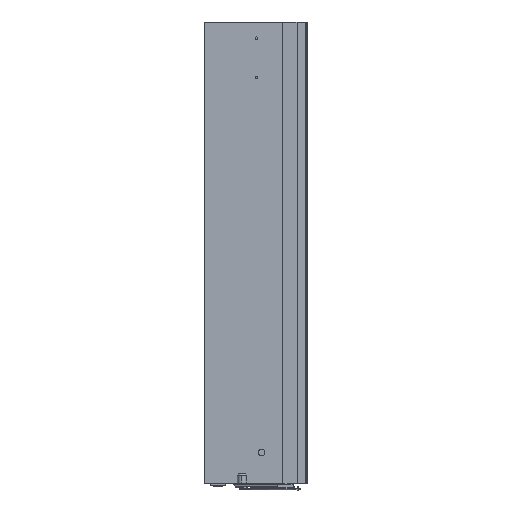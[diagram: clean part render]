
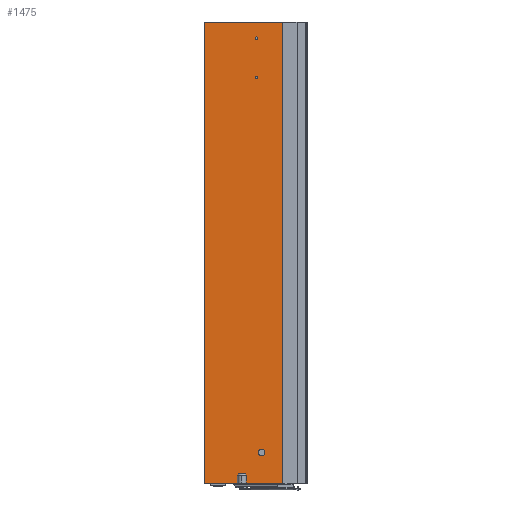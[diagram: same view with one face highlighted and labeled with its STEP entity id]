
A CAD part, left-side view. The second image highlights one B-rep face of the part: STEP entity #1475.
In plain terms, the highlighted planar face has unit normal (-1, 0, 0).
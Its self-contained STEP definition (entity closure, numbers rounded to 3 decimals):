
#35 = FACE_BOUND ( 'NONE', #408, .T. ) ;
#139 = PLANE ( 'NONE',  #389 ) ;
#146 = CIRCLE ( 'NONE', #3128, 3.9 ) ;
#163 = ORIENTED_EDGE ( 'NONE', *, *, #261, .T. ) ;
#177 = CARTESIAN_POINT ( 'NONE',  ( -10.5, 91.9, -540. ) ) ;
#191 = AXIS2_PLACEMENT_3D ( 'NONE', #1847, #243, #2112 ) ;
#197 = FACE_OUTER_BOUND ( 'NONE', #1613, .T. ) ;
#206 = CIRCLE ( 'NONE', #2056, 1.397 ) ;
#243 = DIRECTION ( 'NONE',  ( -1., 0., 0. ) ) ;
#244 = LINE ( 'NONE', #1810, #2471 ) ;
#261 = EDGE_CURVE ( 'NONE', #502, #2085, #882, .T. ) ;
#286 = VECTOR ( 'NONE', #1964, 1000. ) ;
#389 = AXIS2_PLACEMENT_3D ( 'NONE', #2006, #667, #2561 ) ;
#408 = EDGE_LOOP ( 'NONE', ( #641, #2712 ) ) ;
#435 = DIRECTION ( 'NONE',  ( 0., 1., 0. ) ) ;
#454 = ORIENTED_EDGE ( 'NONE', *, *, #1487, .F. ) ;
#470 = VERTEX_POINT ( 'NONE', #3148 ) ;
#485 = VERTEX_POINT ( 'NONE', #2616 ) ;
#502 = VERTEX_POINT ( 'NONE', #2361 ) ;
#512 = CARTESIAN_POINT ( 'NONE',  ( -10.5, 91.5, -540. ) ) ;
#615 = CARTESIAN_POINT ( 'NONE',  ( -10.5, 0., 0. ) ) ;
#638 = VERTEX_POINT ( 'NONE', #1312 ) ;
#641 = ORIENTED_EDGE ( 'NONE', *, *, #2111, .F. ) ;
#667 = DIRECTION ( 'NONE',  ( 1., 0., 0. ) ) ;
#682 = CIRCLE ( 'NONE', #778, 1.397 ) ;
#729 = DIRECTION ( 'NONE',  ( 1., 0., 0. ) ) ;
#748 = CIRCLE ( 'NONE', #191, 1.397 ) ;
#778 = AXIS2_PLACEMENT_3D ( 'NONE', #2560, #935, #2832 ) ;
#868 = VECTOR ( 'NONE', #2455, 1000. ) ;
#882 = CIRCLE ( 'NONE', #2533, 3.9 ) ;
#911 = CARTESIAN_POINT ( 'NONE',  ( -10.5, 30.85, -64.618 ) ) ;
#935 = DIRECTION ( 'NONE',  ( -1., 0., 0. ) ) ;
#972 = DIRECTION ( 'NONE',  ( -1., 0., 0. ) ) ;
#974 = EDGE_CURVE ( 'NONE', #638, #1377, #3161, .T. ) ;
#989 = LINE ( 'NONE', #615, #286 ) ;
#1100 = VERTEX_POINT ( 'NONE', #512 ) ;
#1162 = CARTESIAN_POINT ( 'NONE',  ( -10.5, 25., -504. ) ) ;
#1176 = DIRECTION ( 'NONE',  ( 0., 1., 0. ) ) ;
#1195 = CARTESIAN_POINT ( 'NONE',  ( -10.5, 91.5, 0. ) ) ;
#1242 = ORIENTED_EDGE ( 'NONE', *, *, #2876, .F. ) ;
#1312 = CARTESIAN_POINT ( 'NONE',  ( -10.5, 0., -540. ) ) ;
#1367 = LINE ( 'NONE', #1195, #1443 ) ;
#1372 = ORIENTED_EDGE ( 'NONE', *, *, #1586, .F. ) ;
#1377 = VERTEX_POINT ( 'NONE', #1692 ) ;
#1379 = EDGE_CURVE ( 'NONE', #2864, #638, #989, .T. ) ;
#1411 = ORIENTED_EDGE ( 'NONE', *, *, #3002, .T. ) ;
#1421 = VERTEX_POINT ( 'NONE', #2527 ) ;
#1434 = DIRECTION ( 'NONE',  ( 0., 1., 0. ) ) ;
#1443 = VECTOR ( 'NONE', #2833, 1000. ) ;
#1475 = ADVANCED_FACE ( 'NONE', ( #35, #197, #2805, #2086 ), #139, .F. ) ;
#1487 = EDGE_CURVE ( 'NONE', #1421, #2864, #1367, .T. ) ;
#1524 = VERTEX_POINT ( 'NONE', #2311 ) ;
#1536 = EDGE_LOOP ( 'NONE', ( #1242, #2692 ) ) ;
#1586 = EDGE_CURVE ( 'NONE', #1377, #1100, #244, .T. ) ;
#1587 = LINE ( 'NONE', #2722, #868 ) ;
#1613 = EDGE_LOOP ( 'NONE', ( #1996, #1372, #2808, #3154, #454 ) ) ;
#1692 = CARTESIAN_POINT ( 'NONE',  ( -10.5, 58., -540. ) ) ;
#1786 = CARTESIAN_POINT ( 'NONE',  ( -10.5, 32.247, -18.85 ) ) ;
#1810 = CARTESIAN_POINT ( 'NONE',  ( -10.5, 91.9, -540. ) ) ;
#1829 = EDGE_CURVE ( 'NONE', #1421, #1100, #1587, .T. ) ;
#1847 = CARTESIAN_POINT ( 'NONE',  ( -10.5, 30.85, -18.85 ) ) ;
#1964 = DIRECTION ( 'NONE',  ( 0., 0., -1. ) ) ;
#1996 = ORIENTED_EDGE ( 'NONE', *, *, #1829, .T. ) ;
#2006 = CARTESIAN_POINT ( 'NONE',  ( -10.5, 91.5, 0. ) ) ;
#2009 = EDGE_CURVE ( 'NONE', #1524, #485, #2348, .T. ) ;
#2018 = EDGE_LOOP ( 'NONE', ( #163, #1411 ) ) ;
#2056 = AXIS2_PLACEMENT_3D ( 'NONE', #2592, #972, #2866 ) ;
#2082 = DIRECTION ( 'NONE',  ( 0., 1., 0. ) ) ;
#2085 = VERTEX_POINT ( 'NONE', #2290 ) ;
#2086 = FACE_BOUND ( 'NONE', #2018, .T. ) ;
#2111 = EDGE_CURVE ( 'NONE', #2988, #470, #206, .T. ) ;
#2112 = DIRECTION ( 'NONE',  ( 0., 1., 0. ) ) ;
#2174 = VECTOR ( 'NONE', #435, 1000. ) ;
#2257 = EDGE_CURVE ( 'NONE', #470, #2988, #748, .T. ) ;
#2290 = CARTESIAN_POINT ( 'NONE',  ( -10.5, 21.1, -504. ) ) ;
#2311 = CARTESIAN_POINT ( 'NONE',  ( -10.5, 29.453, -64.618 ) ) ;
#2348 = CIRCLE ( 'NONE', #3038, 1.397 ) ;
#2351 = CARTESIAN_POINT ( 'NONE',  ( -10.5, 25., -504. ) ) ;
#2361 = CARTESIAN_POINT ( 'NONE',  ( -10.5, 28.9, -504. ) ) ;
#2455 = DIRECTION ( 'NONE',  ( 0., 0., -1. ) ) ;
#2471 = VECTOR ( 'NONE', #2082, 1000. ) ;
#2527 = CARTESIAN_POINT ( 'NONE',  ( -10.5, 91.5, 0. ) ) ;
#2533 = AXIS2_PLACEMENT_3D ( 'NONE', #1162, #3067, #1434 ) ;
#2560 = CARTESIAN_POINT ( 'NONE',  ( -10.5, 30.85, -64.618 ) ) ;
#2561 = DIRECTION ( 'NONE',  ( 0., 1., 0. ) ) ;
#2592 = CARTESIAN_POINT ( 'NONE',  ( -10.5, 30.85, -18.85 ) ) ;
#2616 = CARTESIAN_POINT ( 'NONE',  ( -10.5, 32.247, -64.618 ) ) ;
#2621 = DIRECTION ( 'NONE',  ( 0., 1., 0. ) ) ;
#2692 = ORIENTED_EDGE ( 'NONE', *, *, #2009, .F. ) ;
#2712 = ORIENTED_EDGE ( 'NONE', *, *, #2257, .F. ) ;
#2722 = CARTESIAN_POINT ( 'NONE',  ( -10.5, 91.5, 0. ) ) ;
#2801 = DIRECTION ( 'NONE',  ( -1., 0., 0. ) ) ;
#2805 = FACE_BOUND ( 'NONE', #1536, .T. ) ;
#2808 = ORIENTED_EDGE ( 'NONE', *, *, #974, .F. ) ;
#2832 = DIRECTION ( 'NONE',  ( 0., 1., 0. ) ) ;
#2833 = DIRECTION ( 'NONE',  ( 0., -1., 0. ) ) ;
#2864 = VERTEX_POINT ( 'NONE', #3476 ) ;
#2866 = DIRECTION ( 'NONE',  ( 0., 1., 0. ) ) ;
#2876 = EDGE_CURVE ( 'NONE', #485, #1524, #682, .T. ) ;
#2988 = VERTEX_POINT ( 'NONE', #1786 ) ;
#3002 = EDGE_CURVE ( 'NONE', #2085, #502, #146, .T. ) ;
#3038 = AXIS2_PLACEMENT_3D ( 'NONE', #911, #2801, #1176 ) ;
#3067 = DIRECTION ( 'NONE',  ( 1., 0., 0. ) ) ;
#3128 = AXIS2_PLACEMENT_3D ( 'NONE', #2351, #729, #2621 ) ;
#3148 = CARTESIAN_POINT ( 'NONE',  ( -10.5, 29.453, -18.85 ) ) ;
#3154 = ORIENTED_EDGE ( 'NONE', *, *, #1379, .F. ) ;
#3161 = LINE ( 'NONE', #177, #2174 ) ;
#3476 = CARTESIAN_POINT ( 'NONE',  ( -10.5, 0., 0. ) ) ;
